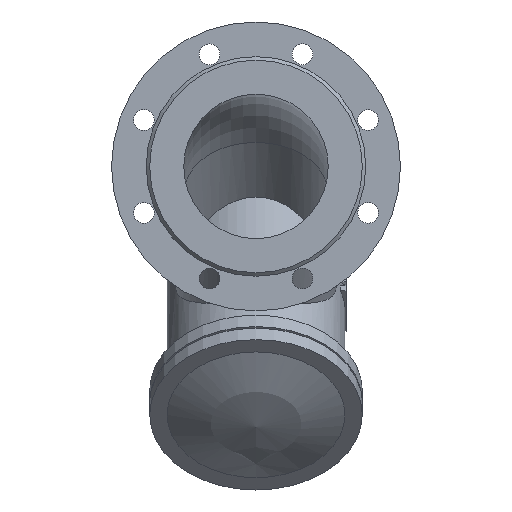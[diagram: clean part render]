
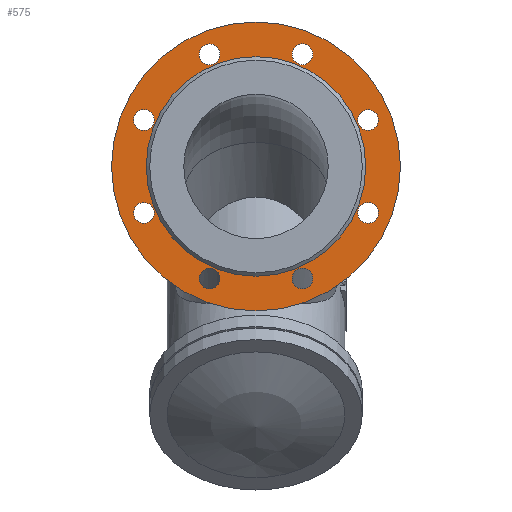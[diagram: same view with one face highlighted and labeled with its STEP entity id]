
A CAD part, front view. The second image highlights one B-rep face of the part: STEP entity #575.
In plain terms, the highlighted planar face has unit normal (0, -1, 0).
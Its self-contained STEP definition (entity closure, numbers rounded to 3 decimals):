
#575=ADVANCED_FACE('',(#1234,#1236,#1238,#1240,#1242,#1244,#1246,#1248,#1250,#1252),
#1254,.T.);
#1234=FACE_BOUND('',#1235,.T.);
#1235=EDGE_LOOP('',(#1638));
#1236=FACE_BOUND('',#1237,.T.);
#1237=EDGE_LOOP('',(#1639));
#1238=FACE_BOUND('',#1239,.T.);
#1239=EDGE_LOOP('',(#1640));
#1240=FACE_BOUND('',#1241,.T.);
#1241=EDGE_LOOP('',(#1641));
#1242=FACE_BOUND('',#1243,.T.);
#1243=EDGE_LOOP('',(#1642));
#1244=FACE_BOUND('',#1245,.T.);
#1245=EDGE_LOOP('',(#1643));
#1246=FACE_BOUND('',#1247,.T.);
#1247=EDGE_LOOP('',(#1644));
#1248=FACE_BOUND('',#1249,.T.);
#1249=EDGE_LOOP('',(#1645));
#1250=FACE_BOUND('',#1251,.T.);
#1251=EDGE_LOOP('',(#1646));
#1252=FACE_BOUND('',#1253,.T.);
#1253=EDGE_LOOP('',(#1647));
#1254=PLANE('',#1255);
#1255=AXIS2_PLACEMENT_3D('',#1256,#1257,#1258);
#1256=CARTESIAN_POINT('',(0.,-197.,0.));
#1257=DIRECTION('',(0.,-1.,0.));
#1258=DIRECTION('',(0.,0.,1.));
#1638=ORIENTED_EDGE('',*,*,#1788,.F.);
#1639=ORIENTED_EDGE('',*,*,#1796,.T.);
#1640=ORIENTED_EDGE('',*,*,#1795,.T.);
#1641=ORIENTED_EDGE('',*,*,#1794,.T.);
#1642=ORIENTED_EDGE('',*,*,#1793,.T.);
#1643=ORIENTED_EDGE('',*,*,#1792,.T.);
#1644=ORIENTED_EDGE('',*,*,#1791,.T.);
#1645=ORIENTED_EDGE('',*,*,#1790,.T.);
#1646=ORIENTED_EDGE('',*,*,#1807,.T.);
#1647=ORIENTED_EDGE('',*,*,#1789,.T.);
#1788=EDGE_CURVE('',#2000,#2000,#2001,.T.);
#1789=EDGE_CURVE('',#2002,#2002,#2003,.F.);
#1790=EDGE_CURVE('',#2004,#2004,#2005,.F.);
#1791=EDGE_CURVE('',#2006,#2006,#2007,.F.);
#1792=EDGE_CURVE('',#2008,#2008,#2009,.F.);
#1793=EDGE_CURVE('',#2010,#2010,#2011,.F.);
#1794=EDGE_CURVE('',#2012,#2012,#2013,.F.);
#1795=EDGE_CURVE('',#2014,#2014,#2015,.F.);
#1796=EDGE_CURVE('',#2016,#2016,#2017,.F.);
#1807=EDGE_CURVE('',#2038,#2038,#2039,.T.);
#2000=VERTEX_POINT('',#3292);
#2001=CIRCLE('',#3293,125.);
#2002=VERTEX_POINT('',#3297);
#2003=CIRCLE('',#3298,9.);
#2004=VERTEX_POINT('',#3302);
#2005=CIRCLE('',#3303,9.);
#2006=VERTEX_POINT('',#3307);
#2007=CIRCLE('',#3308,9.);
#2008=VERTEX_POINT('',#3312);
#2009=CIRCLE('',#3313,9.);
#2010=VERTEX_POINT('',#3317);
#2011=CIRCLE('',#3318,9.);
#2012=VERTEX_POINT('',#3322);
#2013=CIRCLE('',#3323,9.);
#2014=VERTEX_POINT('',#3327);
#2015=CIRCLE('',#3328,9.);
#2016=VERTEX_POINT('',#3332);
#2017=CIRCLE('',#3333,9.);
#2038=VERTEX_POINT('',#3387);
#2039=CIRCLE('',#3388,95.);
#3292=CARTESIAN_POINT('',(0.,-197.,125.));
#3293=AXIS2_PLACEMENT_3D('',#3294,#3295,#3296);
#3294=CARTESIAN_POINT('',(0.,-197.,0.));
#3295=DIRECTION('',(0.,1.,0.));
#3296=DIRECTION('',(0.,0.,1.));
#3297=CARTESIAN_POINT('',(-31.182,-197.,97.007));
#3298=AXIS2_PLACEMENT_3D('',#3299,#3300,#3301);
#3299=CARTESIAN_POINT('',(-40.182,-197.,97.007));
#3300=DIRECTION('',(0.,-1.,0.));
#3301=DIRECTION('',(1.,0.,0.));
#3302=CARTESIAN_POINT('',(-90.643,-197.,46.546));
#3303=AXIS2_PLACEMENT_3D('',#3304,#3305,#3306);
#3304=CARTESIAN_POINT('',(-97.007,-197.,40.182));
#3305=DIRECTION('',(0.,-1.,0.));
#3306=DIRECTION('',(0.707,0.,0.707));
#3307=CARTESIAN_POINT('',(-97.007,-197.,-31.182));
#3308=AXIS2_PLACEMENT_3D('',#3309,#3310,#3311);
#3309=CARTESIAN_POINT('',(-97.007,-197.,-40.182));
#3310=DIRECTION('',(0.,-1.,0.));
#3311=DIRECTION('',(0.,0.,1.));
#3312=CARTESIAN_POINT('',(-46.546,-197.,-90.643));
#3313=AXIS2_PLACEMENT_3D('',#3314,#3315,#3316);
#3314=CARTESIAN_POINT('',(-40.182,-197.,-97.007));
#3315=DIRECTION('',(0.,-1.,0.));
#3316=DIRECTION('',(-0.707,0.,0.707));
#3317=CARTESIAN_POINT('',(31.182,-197.,-97.007));
#3318=AXIS2_PLACEMENT_3D('',#3319,#3320,#3321);
#3319=CARTESIAN_POINT('',(40.182,-197.,-97.007));
#3320=DIRECTION('',(0.,-1.,0.));
#3321=DIRECTION('',(-1.,0.,0.));
#3322=CARTESIAN_POINT('',(90.643,-197.,-46.546));
#3323=AXIS2_PLACEMENT_3D('',#3324,#3325,#3326);
#3324=CARTESIAN_POINT('',(97.007,-197.,-40.182));
#3325=DIRECTION('',(0.,-1.,0.));
#3326=DIRECTION('',(-0.707,0.,-0.707));
#3327=CARTESIAN_POINT('',(97.007,-197.,31.182));
#3328=AXIS2_PLACEMENT_3D('',#3329,#3330,#3331);
#3329=CARTESIAN_POINT('',(97.007,-197.,40.182));
#3330=DIRECTION('',(0.,-1.,0.));
#3331=DIRECTION('',(0.,0.,-1.));
#3332=CARTESIAN_POINT('',(46.546,-197.,90.643));
#3333=AXIS2_PLACEMENT_3D('',#3334,#3335,#3336);
#3334=CARTESIAN_POINT('',(40.182,-197.,97.007));
#3335=DIRECTION('',(0.,-1.,0.));
#3336=DIRECTION('',(0.707,0.,-0.707));
#3387=CARTESIAN_POINT('',(0.,-197.,95.));
#3388=AXIS2_PLACEMENT_3D('',#3389,#3390,#3391);
#3389=CARTESIAN_POINT('',(0.,-197.,0.));
#3390=DIRECTION('',(0.,1.,0.));
#3391=DIRECTION('',(0.,0.,1.));
